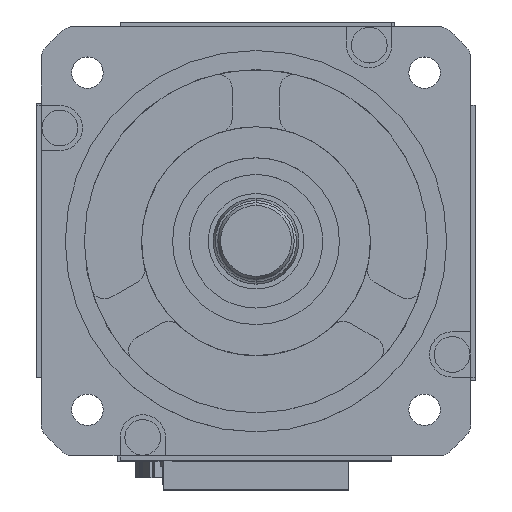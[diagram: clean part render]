
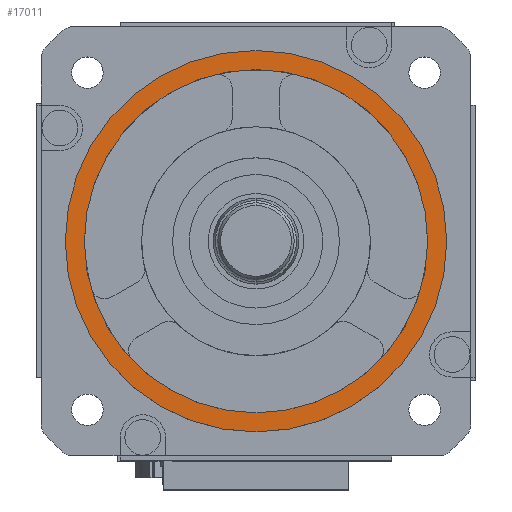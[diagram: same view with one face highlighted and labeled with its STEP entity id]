
A CAD part, top view. The second image highlights one B-rep face of the part: STEP entity #17011.
In plain terms, the highlighted planar face has unit normal (0, 0, 1).
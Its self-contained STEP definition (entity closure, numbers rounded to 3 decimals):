
#225 = VERTEX_POINT ( 'NONE', #7309 ) ;
#261 = CARTESIAN_POINT ( 'NONE',  ( 0., 0., 5. ) ) ;
#710 = CARTESIAN_POINT ( 'NONE',  ( 0., 0., 5. ) ) ;
#718 = ORIENTED_EDGE ( 'NONE', *, *, #16542, .T. ) ;
#1754 = DIRECTION ( 'NONE',  ( 1., 0., 0. ) ) ;
#2003 = EDGE_CURVE ( 'NONE', #2118, #11748, #2379, .T. ) ;
#2118 = VERTEX_POINT ( 'NONE', #12332 ) ;
#2205 = DIRECTION ( 'NONE',  ( 1., 0., 0. ) ) ;
#2379 = CIRCLE ( 'NONE', #14150, 36. ) ;
#2461 = CARTESIAN_POINT ( 'NONE',  ( 0., 0., 5. ) ) ;
#3931 = ORIENTED_EDGE ( 'NONE', *, *, #2003, .F. ) ;
#4789 = DIRECTION ( 'NONE',  ( 0., 0., 1. ) ) ;
#4938 = VERTEX_POINT ( 'NONE', #15643 ) ;
#5730 = DIRECTION ( 'NONE',  ( 1., 0., 0. ) ) ;
#5993 = FACE_BOUND ( 'NONE', #10060, .T. ) ;
#6046 = EDGE_CURVE ( 'NONE', #225, #4938, #12979, .T. ) ;
#6100 = PLANE ( 'NONE',  #6559 ) ;
#6169 = DIRECTION ( 'NONE',  ( 1., 0., 0. ) ) ;
#6308 = EDGE_LOOP ( 'NONE', ( #16133, #718 ) ) ;
#6559 = AXIS2_PLACEMENT_3D ( 'NONE', #20368, #4789, #6169 ) ;
#7309 = CARTESIAN_POINT ( 'NONE',  ( -40., 0., 5. ) ) ;
#7979 = FACE_OUTER_BOUND ( 'NONE', #6308, .T. ) ;
#8726 = DIRECTION ( 'NONE',  ( 0., 0., 1. ) ) ;
#9202 = AXIS2_PLACEMENT_3D ( 'NONE', #2461, #18415, #18484 ) ;
#10060 = EDGE_LOOP ( 'NONE', ( #14223, #3931 ) ) ;
#10560 = EDGE_CURVE ( 'NONE', #11748, #2118, #11460, .T. ) ;
#10651 = DIRECTION ( 'NONE',  ( 0., 0., 1. ) ) ;
#11423 = DIRECTION ( 'NONE',  ( 0., 0., 1. ) ) ;
#11460 = CIRCLE ( 'NONE', #12616, 36. ) ;
#11748 = VERTEX_POINT ( 'NONE', #16807 ) ;
#12332 = CARTESIAN_POINT ( 'NONE',  ( -36., 0., 5. ) ) ;
#12616 = AXIS2_PLACEMENT_3D ( 'NONE', #15380, #10651, #5730 ) ;
#12979 = CIRCLE ( 'NONE', #9202, 40. ) ;
#12990 = CIRCLE ( 'NONE', #16234, 40. ) ;
#14150 = AXIS2_PLACEMENT_3D ( 'NONE', #710, #8726, #2205 ) ;
#14223 = ORIENTED_EDGE ( 'NONE', *, *, #10560, .F. ) ;
#15380 = CARTESIAN_POINT ( 'NONE',  ( 0., 0., 5. ) ) ;
#15643 = CARTESIAN_POINT ( 'NONE',  ( 40., 0., 5. ) ) ;
#16133 = ORIENTED_EDGE ( 'NONE', *, *, #6046, .T. ) ;
#16234 = AXIS2_PLACEMENT_3D ( 'NONE', #261, #11423, #1754 ) ;
#16542 = EDGE_CURVE ( 'NONE', #4938, #225, #12990, .T. ) ;
#16807 = CARTESIAN_POINT ( 'NONE',  ( 36., 0., 5. ) ) ;
#17011 = ADVANCED_FACE ( 'NONE', ( #5993, #7979 ), #6100, .T. ) ;
#18415 = DIRECTION ( 'NONE',  ( 0., 0., 1. ) ) ;
#18484 = DIRECTION ( 'NONE',  ( 1., 0., 0. ) ) ;
#20368 = CARTESIAN_POINT ( 'NONE',  ( 0., 0., 5. ) ) ;
